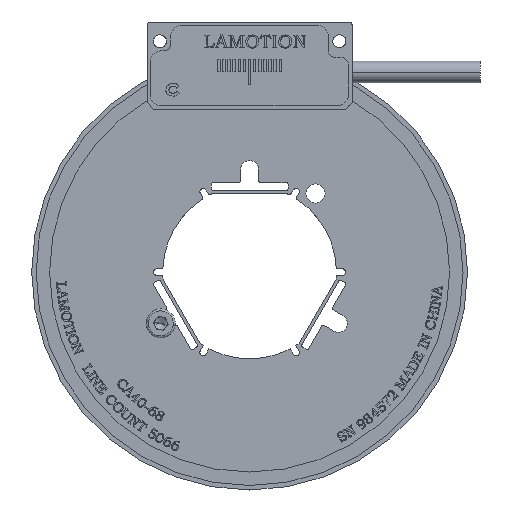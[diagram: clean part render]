
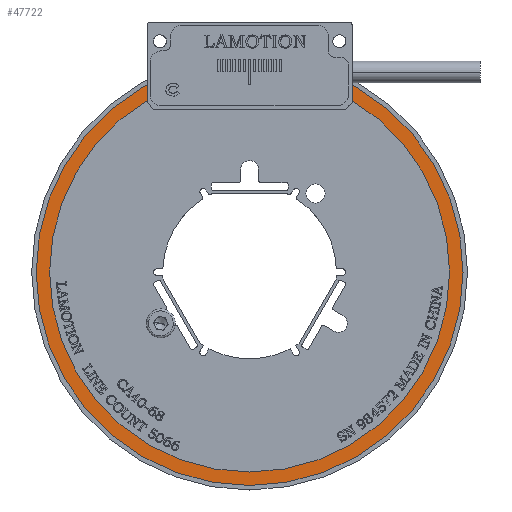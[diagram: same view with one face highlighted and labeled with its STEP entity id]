
A CAD part, top view. The second image highlights one B-rep face of the part: STEP entity #47722.
In plain terms, the highlighted planar face has unit normal (0, 0, 1).
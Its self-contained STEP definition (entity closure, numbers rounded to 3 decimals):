
#121 = ORIENTED_EDGE ( 'NONE', *, *, #64815, .T. ) ;
#744 = ORIENTED_EDGE ( 'NONE', *, *, #10115, .F. ) ;
#1666 = DIRECTION ( 'NONE',  ( 0., 0., 1. ) ) ;
#5620 = AXIS2_PLACEMENT_3D ( 'NONE', #19589, #14745, #56472 ) ;
#7211 = VERTEX_POINT ( 'NONE', #52428 ) ;
#9479 = DIRECTION ( 'NONE',  ( 0., 0., 1. ) ) ;
#10115 = EDGE_CURVE ( 'NONE', #7211, #27890, #32988, .T. ) ;
#10371 = EDGE_CURVE ( 'NONE', #27890, #7211, #55049, .T. ) ;
#11290 = AXIS2_PLACEMENT_3D ( 'NONE', #43459, #1666, #25629 ) ;
#12070 = AXIS2_PLACEMENT_3D ( 'NONE', #57494, #16429, #31294 ) ;
#14144 = CARTESIAN_POINT ( 'NONE',  ( 33.3, 0., -0.001 ) ) ;
#14745 = DIRECTION ( 'NONE',  ( 0., 0., 1. ) ) ;
#16355 = AXIS2_PLACEMENT_3D ( 'NONE', #56742, #9479, #62595 ) ;
#16429 = DIRECTION ( 'NONE',  ( 0., 0., 1. ) ) ;
#16812 = CIRCLE ( 'NONE', #11290, 33.3 ) ;
#19029 = EDGE_CURVE ( 'NONE', #48733, #63626, #16812, .T. ) ;
#19589 = CARTESIAN_POINT ( 'NONE',  ( 0., 0., -0.001 ) ) ;
#19976 = CIRCLE ( 'NONE', #5620, 33.3 ) ;
#21216 = CARTESIAN_POINT ( 'NONE',  ( 0., 0., -0.001 ) ) ;
#24970 = ORIENTED_EDGE ( 'NONE', *, *, #10371, .F. ) ;
#25629 = DIRECTION ( 'NONE',  ( 1., 0., 0. ) ) ;
#27890 = VERTEX_POINT ( 'NONE', #39135 ) ;
#31294 = DIRECTION ( 'NONE',  ( 1., 0., 0. ) ) ;
#32227 = DIRECTION ( 'NONE',  ( 1., 0., 0. ) ) ;
#32988 = CIRCLE ( 'NONE', #12070, 31.2 ) ;
#34119 = AXIS2_PLACEMENT_3D ( 'NONE', #21216, #57749, #32227 ) ;
#34203 = EDGE_LOOP ( 'NONE', ( #121, #50165 ) ) ;
#35206 = CARTESIAN_POINT ( 'NONE',  ( -33.3, 0., -0.001 ) ) ;
#36412 = EDGE_LOOP ( 'NONE', ( #744, #24970 ) ) ;
#39135 = CARTESIAN_POINT ( 'NONE',  ( -31.2, 0., -0.001 ) ) ;
#40903 = PLANE ( 'NONE',  #16355 ) ;
#41594 = FACE_BOUND ( 'NONE', #36412, .T. ) ;
#43459 = CARTESIAN_POINT ( 'NONE',  ( 0., 0., -0.001 ) ) ;
#47096 = FACE_OUTER_BOUND ( 'NONE', #34203, .T. ) ;
#47722 = ADVANCED_FACE ( 'NONE', ( #41594, #47096 ), #40903, .T. ) ;
#48733 = VERTEX_POINT ( 'NONE', #35206 ) ;
#50165 = ORIENTED_EDGE ( 'NONE', *, *, #19029, .T. ) ;
#52428 = CARTESIAN_POINT ( 'NONE',  ( 31.2, 0., -0.001 ) ) ;
#55049 = CIRCLE ( 'NONE', #34119, 31.2 ) ;
#56472 = DIRECTION ( 'NONE',  ( 1., 0., 0. ) ) ;
#56742 = CARTESIAN_POINT ( 'NONE',  ( 0., 0., -0.001 ) ) ;
#57494 = CARTESIAN_POINT ( 'NONE',  ( 0., 0., -0.001 ) ) ;
#57749 = DIRECTION ( 'NONE',  ( 0., 0., 1. ) ) ;
#62595 = DIRECTION ( 'NONE',  ( 1., 0., 0. ) ) ;
#63626 = VERTEX_POINT ( 'NONE', #14144 ) ;
#64815 = EDGE_CURVE ( 'NONE', #63626, #48733, #19976, .T. ) ;
